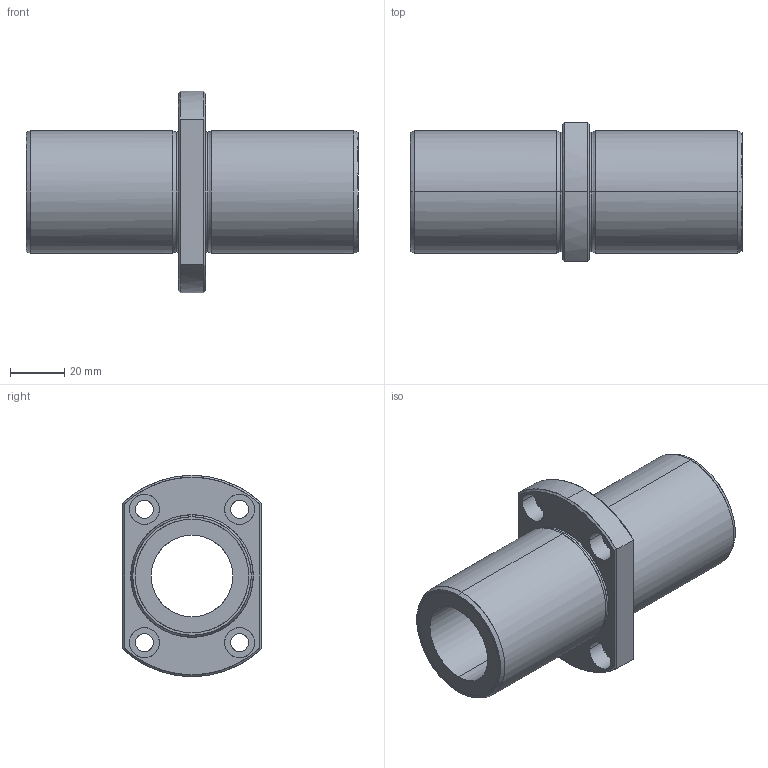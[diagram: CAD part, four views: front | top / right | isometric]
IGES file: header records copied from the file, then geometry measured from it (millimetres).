
Global section: file name: No Iges File Name specified; native system: AutoDesk Inventor R10; preprocessor: AutoDesk Inventor Iges Exporter R10; author: No Author specified; organization: No Organization specified; date: 20101211.160007; units: millimetre
Bounding box: 122 x 51 x 74 mm (x, y, z)
Surface area: 35726.7 mm2 (no closed solid volume)
Topology: 0 solids, 0 shells, 66 faces, 416 edges, 416 vertices
Faces by surface type: bspline 66
